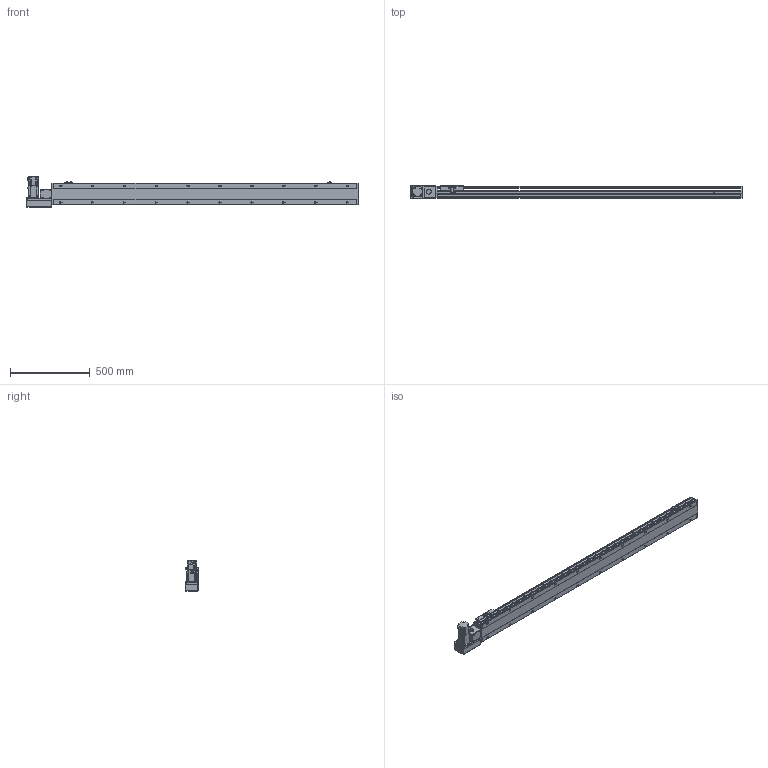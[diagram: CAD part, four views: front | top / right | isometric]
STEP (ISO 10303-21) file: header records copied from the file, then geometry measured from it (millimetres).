
FILE_DESCRIPTION( ( 'STEP AP214' ), '1' );
FILE_NAME( 'x:/temp/worker_27/temp/exporttempdir_6708_303_TSvW2/format_0/PBS140-P40-S1650-L-T40-C1-N(0).stp', '2022-06-06T01:02:36', ( 'License CC BY-ND 4.0' ), ( 'CADENAS' ), ' ', 'PARTsolutions', ' ' );
FILE_SCHEMA( ( 'AUTOMOTIVE_DESIGN { 1 0 10303 214 1 1 1 1 }' ) );
Length unit declared in the file: millimetre
Products named in the file (7): PBS140-P40-S1650-L-T40-C1-N(0); _PBS140-S1650()_body; _PBS140T-L_motors; _T40-p1; _PBS140_sliser; _PBS140_plant; _PBS140_sensor
Assembly tree (8 placements, depth 2):
  PBS140-P40-S1650-L-T40-C1-N(0)
    _PBS140-S1650()_body
    _PBS140T-L_motors
    _T40-p1
    _PBS140_sliser
    _PBS140_plant
    _PBS140_sensor  x3
Bounding box: 2083 x 80.5 x 189.7 mm (x, y, z)
Volume: 9238979.8 mm3; surface area: 1589920.3 mm2
Topology: 8 solids, 8 shells, 1107 faces, 2916 edges, 1905 vertices
Faces by surface type: plane 704, cylinder 347, cone 46, sphere 8, torus 2
Full cylindrical faces by diameter (mm): 3.242 x4, 4 x2, 4.134 x4, 4.4 x8, 4.5 x2, 4.8 x4, 4.917 x28, 5.5 x7, 6 x2, 7 x22, 7.5 x8, 8 x12, 8.5 x4, 10.5 x20, 14 x1, 30 x2, 50 x2
Entity records: 40573 total; most frequent: CARTESIAN_POINT 6587, DIRECTION 5337, ORIENTED_EDGE 5032, EDGE_CURVE 2516, AXIS2_PLACEMENT_3D 1867, VERTEX_POINT 1749, LINE 1603, VECTOR 1603
